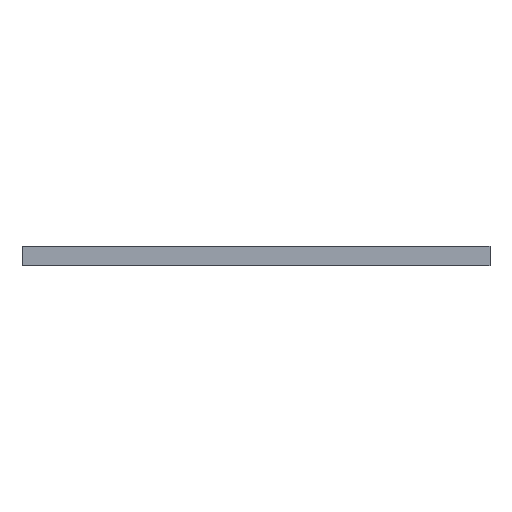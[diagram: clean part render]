
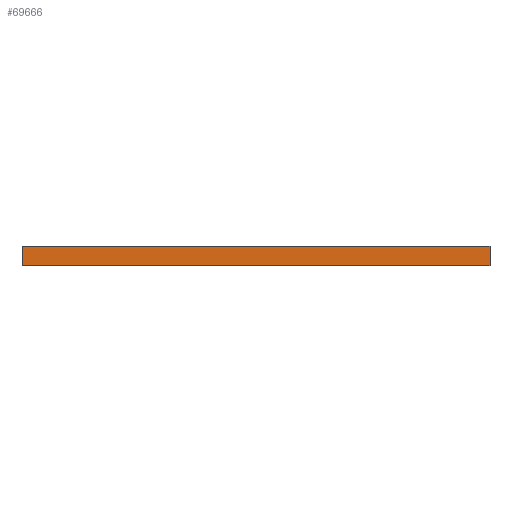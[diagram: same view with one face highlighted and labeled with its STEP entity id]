
A CAD part, front view. The second image highlights one B-rep face of the part: STEP entity #69666.
In plain terms, the highlighted planar face has unit normal (0, -1, 0).
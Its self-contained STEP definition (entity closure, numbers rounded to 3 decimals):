
#336 = VECTOR ( 'NONE', #133282, 1000. ) ;
#1190 = CARTESIAN_POINT ( 'NONE',  ( 0., -500., 0. ) ) ;
#4058 = DIRECTION ( 'NONE',  ( 0., 0., -1. ) ) ;
#19499 = CARTESIAN_POINT ( 'NONE',  ( 12., -500., 0. ) ) ;
#20547 = LINE ( 'NONE', #70024, #169559 ) ;
#32474 = EDGE_LOOP ( 'NONE', ( #52572, #94614, #107057, #49330 ) ) ;
#32513 = FACE_OUTER_BOUND ( 'NONE', #32474, .T. ) ;
#35847 = AXIS2_PLACEMENT_3D ( 'NONE', #115014, #149044, #99587 ) ;
#40759 = EDGE_CURVE ( 'NONE', #189596, #192542, #162158, .T. ) ;
#42236 = EDGE_CURVE ( 'NONE', #189596, #150846, #54098, .T. ) ;
#49330 = ORIENTED_EDGE ( 'NONE', *, *, #42236, .T. ) ;
#50666 = DIRECTION ( 'NONE',  ( 1., 0., 0. ) ) ;
#52572 = ORIENTED_EDGE ( 'NONE', *, *, #115827, .T. ) ;
#53014 = CARTESIAN_POINT ( 'NONE',  ( 0., -500., 0.5 ) ) ;
#54098 = LINE ( 'NONE', #53014, #336 ) ;
#69666 = ADVANCED_FACE ( 'NONE', ( #32513 ), #136910, .F. ) ;
#70024 = CARTESIAN_POINT ( 'NONE',  ( 12., -500., 0.5 ) ) ;
#81136 = CARTESIAN_POINT ( 'NONE',  ( 0., -500., 0. ) ) ;
#84728 = LINE ( 'NONE', #1190, #129385 ) ;
#94614 = ORIENTED_EDGE ( 'NONE', *, *, #127841, .F. ) ;
#99587 = DIRECTION ( 'NONE',  ( -1., 0., 0. ) ) ;
#107057 = ORIENTED_EDGE ( 'NONE', *, *, #40759, .F. ) ;
#115014 = CARTESIAN_POINT ( 'NONE',  ( 0., -500., 0.5 ) ) ;
#115827 = EDGE_CURVE ( 'NONE', #150846, #146512, #84728, .T. ) ;
#127841 = EDGE_CURVE ( 'NONE', #192542, #146512, #20547, .T. ) ;
#129385 = VECTOR ( 'NONE', #50666, 1000. ) ;
#133282 = DIRECTION ( 'NONE',  ( 0., 0., -1. ) ) ;
#136910 = PLANE ( 'NONE',  #35847 ) ;
#137861 = CARTESIAN_POINT ( 'NONE',  ( 0., -500., 0.5 ) ) ;
#146512 = VERTEX_POINT ( 'NONE', #19499 ) ;
#149044 = DIRECTION ( 'NONE',  ( 0., 1., 0. ) ) ;
#150846 = VERTEX_POINT ( 'NONE', #81136 ) ;
#158191 = VECTOR ( 'NONE', #217083, 1000. ) ;
#162158 = LINE ( 'NONE', #137861, #158191 ) ;
#169559 = VECTOR ( 'NONE', #4058, 1000. ) ;
#172034 = CARTESIAN_POINT ( 'NONE',  ( 0., -500., 0.5 ) ) ;
#174254 = CARTESIAN_POINT ( 'NONE',  ( 12., -500., 0.5 ) ) ;
#189596 = VERTEX_POINT ( 'NONE', #172034 ) ;
#192542 = VERTEX_POINT ( 'NONE', #174254 ) ;
#217083 = DIRECTION ( 'NONE',  ( 1., 0., 0. ) ) ;
